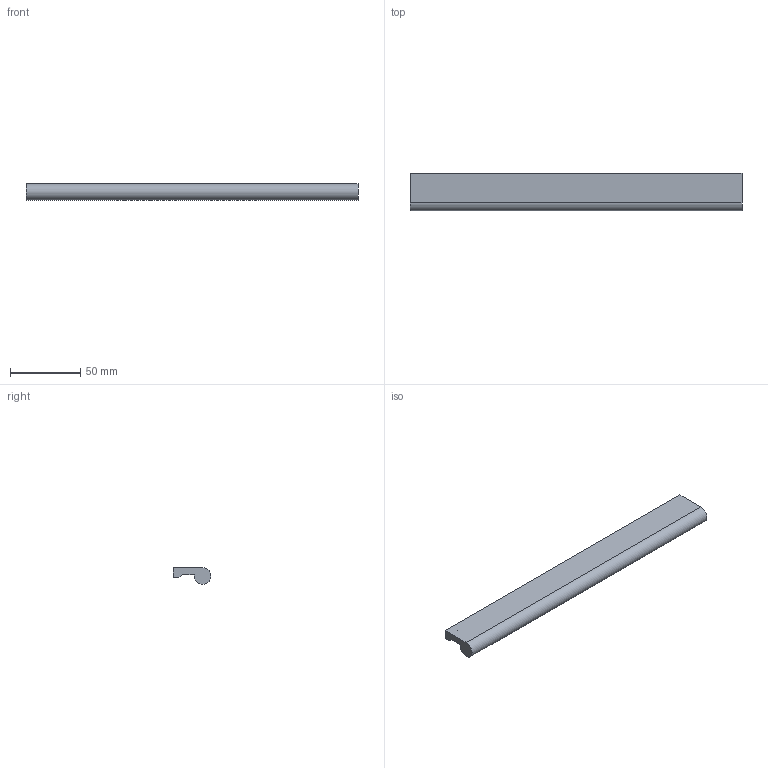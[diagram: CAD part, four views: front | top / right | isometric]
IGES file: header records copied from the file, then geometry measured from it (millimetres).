
Start section: Data from Parasolid IGES Translator 15.0.47, Copyright(c) 2006 Siemens P LM Software. All Rights Reserved.
Global section: file name: 115109.igs; native system:  By UGS Corp.; preprocessor: XPlus GENERIC/IGES 3.0; author: Noname; organization: Noname; date: 20140122.143332; units: millimetre
Bounding box: 236 x 27 x 12 mm (x, y, z)
Surface area: 17830.7 mm2 (no closed solid volume)
Topology: 0 solids, 0 shells, 12 faces, 48 edges, 46 vertices
Faces by surface type: extrusion 9, revolution 3
